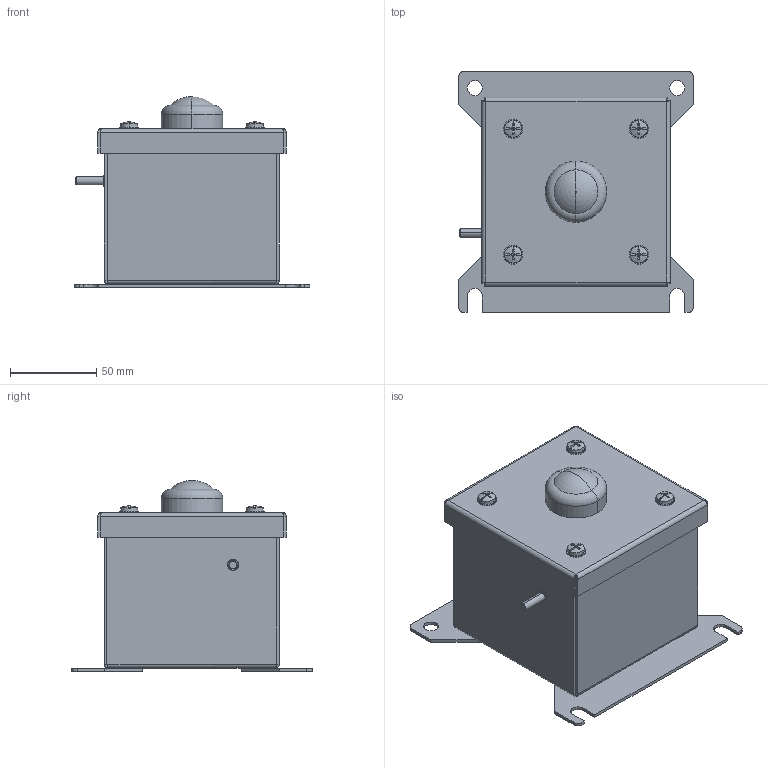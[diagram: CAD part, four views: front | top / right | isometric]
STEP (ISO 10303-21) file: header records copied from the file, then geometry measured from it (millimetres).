
FILE_DESCRIPTION (( 'STEP AP203' ), '1' );
FILE_NAME ('HLSW-SS-PL-LED-GRN.STEP', '2026-01-21T16:07:35', ( '' ), ( '' ), 'SwSTEP 2.0', 'SolidWorks 2020', '' );
FILE_SCHEMA (( 'CONFIG_CONTROL_DESIGN' ));
Length unit declared in the file: inch
Products named in the file (17): HLSW-SS-PL-LED-GRN; 23830CBAM.8EDDCDBF8A6DB5499491A8820AE6A80F_HLSW-SS-PL-LED-RED; 10-32_0.594 SS Captive Screw; No 10 316 SS Flat Washer; No 10 SS Lock Washer; 10-32 SS Hex Nut; 10-32 SS Stud.BAC3E02BCD7FF8F991C15DEC9CE9987E; 10-32_SS_Rivnut; 23803ABAB.07A43D718AC92FB8723B9E3778C35F06; Indicator Light; HFW316365; Mounting Feet.A7DC5652DF1A222D336623F6733BB013; No_10 Aluminum Retaining Washer; Mounting Feet.812231A1FEC0AFA221FF756EB6BACF1E; 23835AAAB.6C02CB6D2DBB179D77D1DC2A0817B43E; BS04-032-16; 10-32 SS Stud.E509577EA3F05BD9AEA834716E77C08A
Assembly tree (33 placements, depth 2):
  HLSW-SS-PL-LED-GRN
    23803ABAB.07A43D718AC92FB8723B9E3778C35F06
    23830CBAM.8EDDCDBF8A6DB5499491A8820AE6A80F_HLSW-SS-PL-LED-RED
    23835AAAB.6C02CB6D2DBB179D77D1DC2A0817B43E
    10-32 SS Stud.E509577EA3F05BD9AEA834716E77C08A  x2
    10-32 SS Stud.BAC3E02BCD7FF8F991C15DEC9CE9987E
    No 10 SS Lock Washer
    10-32 SS Hex Nut
    Mounting Feet.A7DC5652DF1A222D336623F6733BB013
    Mounting Feet.812231A1FEC0AFA221FF756EB6BACF1E
    BS04-032-16  x2
    10-32_0.594 SS Captive Screw  x4
    No 10 316 SS Flat Washer  x4
    No_10 Aluminum Retaining Washer  x4
    10-32_SS_Rivnut  x4
    HFW316365  x4
    Indicator Light
Bounding box: 136.53 x 139.7 x 110.74 mm (x, y, z)
Volume: 147906.2 mm3; surface area: 176323.8 mm2
Topology: 33 solids, 33 shells, 693 faces, 1678 edges, 1060 vertices
Faces by surface type: plane 309, cylinder 212, cone 110, bspline 58, torus 4
Entity records: 15429 total; most frequent: CARTESIAN_POINT 3894, ORIENTED_EDGE 1916, DIRECTION 1887, EDGE_CURVE 958, AXIS2_PLACEMENT_3D 668, VERTEX_POINT 603, VECTOR 551, LINE 551
